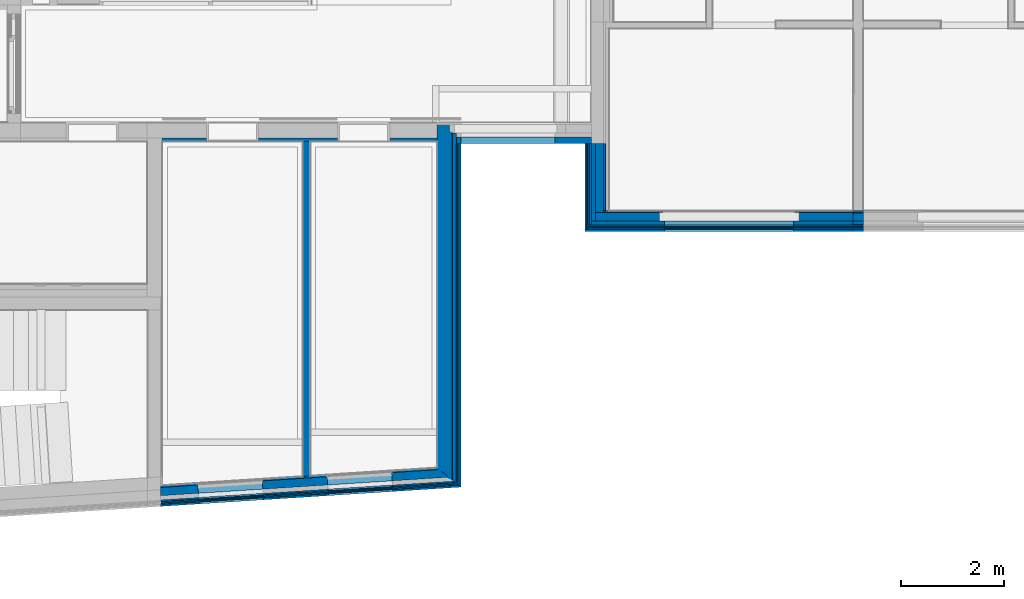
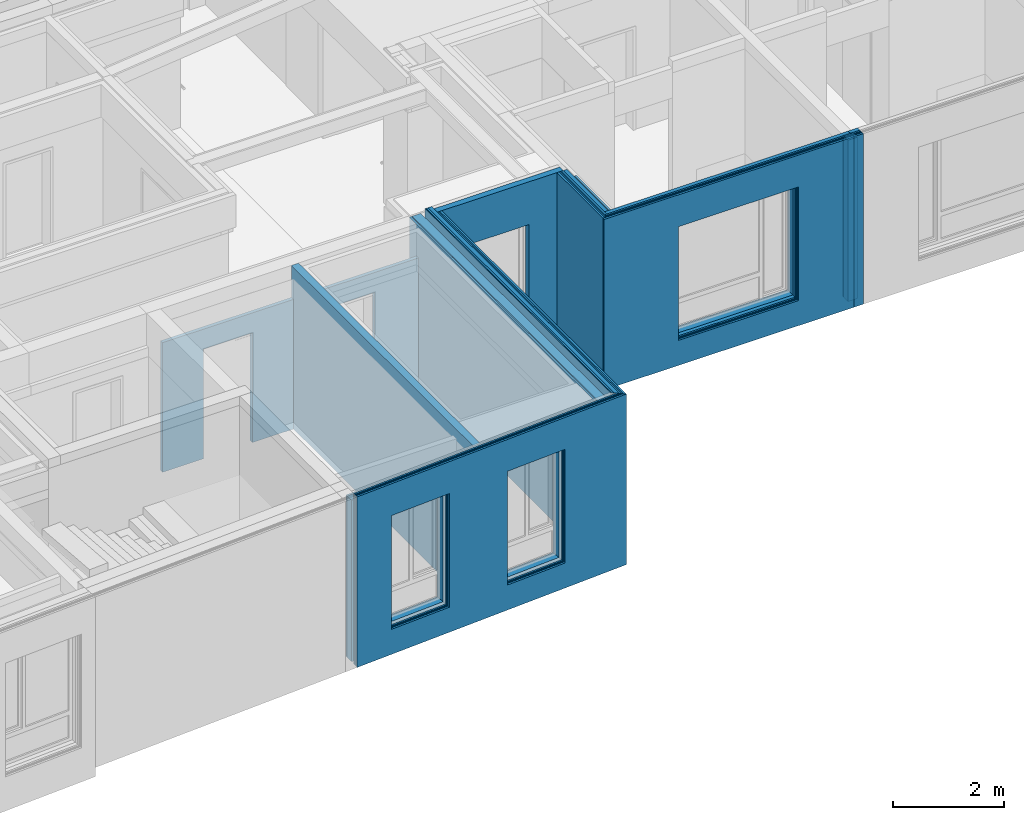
# One storey, part 40 of 222: 39 walls, 24 openings.
"""IFC4 building model written with IfcOpenShell, lengths in metres."""

import ifcopenshell
import ifcopenshell.guid

model = None  # the IFC model being written
_history = None  # IfcOwnerHistory: only IFC2X3 demands one
_inside = {}  # id of a spatial element -> (the spatial element, [elements in it])
_under = {}  # id of a project, library or spatial element -> (it, [spatial elements below it])
_declared = {}  # id of a project -> (the project, [libraries it declares])
_typed = {}  # id of a type object -> (the type object, [elements of that type])
_made_of = {}  # id of a material, layer set ... -> (it, [elements and type objects made of it])


def new_model(schema):
    """Start an empty IFC model of exactly this schema.

    Asked for "IFC4X3", IfcOpenShell would pick the latest addendum, in which some entities
    have other attributes; the version numbers below select the first issue.
    IFC2X3 requires an IfcOwnerHistory on every rooted entity: one is made here for all.
    """
    global model, _history
    if schema == "IFC4X3":
        model = ifcopenshell.file(schema_version=(4, 3, 0, 0))
    else:
        model = ifcopenshell.file(schema=schema)
    _inside.clear()
    _under.clear()
    _declared.clear()
    _typed.clear()
    _made_of.clear()
    _history = None
    if model.schema == "IFC2X3":
        org = make("IfcOrganization", Name="unknown")
        user = make(
            "IfcPersonAndOrganization",
            ThePerson=make("IfcPerson", FamilyName="unknown"),
            TheOrganization=org,
        )
        app = make(
            "IfcApplication",
            ApplicationDeveloper=org,
            Version="unknown",
            ApplicationFullName="unknown",
            ApplicationIdentifier="unknown",
        )
        _history = make(
            "IfcOwnerHistory",
            OwningUser=user,
            OwningApplication=app,
            ChangeAction="ADDED",
            CreationDate=0,
        )
    return model


def make(cls, **values):
    """One entity of the class cls with the attributes given. An attribute that is None is left unset."""
    return model.create_entity(
        cls, **{name: value for name, value in values.items() if value is not None}
    )


def entity(cls, *values):
    """Any entity or typed value of the class cls, its attributes in the order of the schema. None: left unset."""
    e = model.create_entity(cls)
    for i, value in enumerate(values):
        if value is not None:
            e[i] = value
    return e


def rooted(cls, **values):
    """An entity with a GlobalId (a new one), such as an element, a storey or a relation."""
    return make(cls, GlobalId=ifcopenshell.guid.new(), OwnerHistory=_history, **values)


def si_unit(unit_type, name, prefix=None):
    """IfcSIUnit, for example si_unit("LENGTHUNIT", "METRE", prefix="MILLI")."""
    return make("IfcSIUnit", UnitType=unit_type, Prefix=prefix, Name=name)


def converted_unit(unit_type, name, factor, base, dimensions=None, offset=None):
    """IfcConversionBasedUnit, such as the inch: factor (a typed value) times the base unit."""
    return make(
        "IfcConversionBasedUnit"
        if offset is None
        else "IfcConversionBasedUnitWithOffset",
        ConversionOffset=offset,
        Dimensions=None
        if dimensions is None
        else entity("IfcDimensionalExponents", *dimensions),
        UnitType=unit_type,
        Name=name,
        ConversionFactor=make(
            "IfcMeasureWithUnit", ValueComponent=factor, UnitComponent=base
        ),
    )


def derived_unit(unit_type, elements):
    """IfcDerivedUnit: a product of units, each with its exponent."""
    return make(
        "IfcDerivedUnit",
        Elements=[
            make("IfcDerivedUnitElement", Unit=unit, Exponent=power)
            for unit, power in elements
        ],
        UnitType=unit_type,
    )


def assignment(units):
    """IfcUnitAssignment: the units of a project."""
    return None if units is None else make("IfcUnitAssignment", Units=units)


def point(xyz):
    """IfcCartesianPoint."""
    return None if xyz is None else make("IfcCartesianPoint", Coordinates=xyz)


def direction(xyz):
    """IfcDirection."""
    return None if xyz is None else make("IfcDirection", DirectionRatios=xyz)


def frame(location, z_axis=None, x_axis=None):
    """IfcAxis2Placement3D, a coordinate frame: its origin and axes. An axis left out is left unset."""
    return make(
        "IfcAxis2Placement3D",
        Location=point(location),
        Axis=direction(z_axis),
        RefDirection=direction(x_axis),
    )


def frame_2d(location, x_axis=None):
    """IfcAxis2Placement2D, a coordinate frame in the plane: its origin and x axis."""
    return make(
        "IfcAxis2Placement2D", Location=point(location), RefDirection=direction(x_axis)
    )


def origin():
    """The frame at (0, 0, 0) with its axes left unset."""
    return frame((0.0, 0.0, 0.0))


def origin_with_axes():
    """The frame at (0, 0, 0) with the z axis (0, 0, 1) and the x axis (1, 0, 0) written out."""
    return frame((0.0, 0.0, 0.0), z_axis=(0.0, 0.0, 1.0), x_axis=(1.0, 0.0, 0.0))


def place(relative_to, where):
    """IfcLocalPlacement: puts the frame where relative to a parent placement (None: the world)."""
    return make(
        "IfcLocalPlacement", PlacementRelTo=relative_to, RelativePlacement=where
    )


def context(
    kind, dimensions, precision=None, world=None, true_north=None, identifier=None
):
    """IfcGeometricRepresentationContext, for example the 3D "Model" context."""
    return make(
        "IfcGeometricRepresentationContext",
        ContextIdentifier=identifier,
        ContextType=kind,
        CoordinateSpaceDimension=dimensions,
        Precision=precision,
        WorldCoordinateSystem=world,
        TrueNorth=true_north,
    )


def subcontext(parent, identifier, kind, view, scale=None):
    """IfcGeometricRepresentationSubContext, for example "Body" below "Model"."""
    return make(
        "IfcGeometricRepresentationSubContext",
        ContextIdentifier=identifier,
        ContextType=kind,
        ParentContext=parent,
        TargetScale=scale,
        TargetView=view,
    )


def project(units=None, contexts=None):
    """IfcProject with its units and contexts."""
    return rooted(
        "IfcProject",
        Name="project",
        RepresentationContexts=contexts,
        UnitsInContext=assignment(units),
    )


def spatial(cls, under=None, at=None, **own):
    """A site, building, storey or space (cls), placed at a placement, below another one or the project."""
    s = rooted(cls, ObjectPlacement=at, **own)
    if under is not None:
        _under.setdefault(under.id(), (under, []))[1].append(s)
    return s


def polyline(points):
    """IfcPolyline through the points."""
    return make("IfcPolyline", Points=[point(p) for p in points])


def profile(cls, at=None, kind="AREA", **sizes):
    """A parametric profile (cls). Its sizes go by their IFC names, for example OverallWidth=200.0."""
    return make(cls, ProfileType=kind, Position=at, **sizes)


def rectangle(**sizes):
    """IfcRectangleProfileDef."""
    return profile("IfcRectangleProfileDef", **sizes)


def outline(outer, holes=None, kind="AREA"):
    """IfcArbitraryClosedProfileDef: a profile drawn as a closed curve; with holes, ...WithVoids."""
    if holes is None:
        return make("IfcArbitraryClosedProfileDef", ProfileType=kind, OuterCurve=outer)
    return make(
        "IfcArbitraryProfileDefWithVoids",
        ProfileType=kind,
        OuterCurve=outer,
        InnerCurves=holes,
    )


def extrude(swept, where, along, depth):
    """IfcExtrudedAreaSolid: the profile swept, set in the frame where, extruded along a direction by depth."""
    return make(
        "IfcExtrudedAreaSolid",
        SweptArea=swept,
        Position=where,
        ExtrudedDirection=direction(along),
        Depth=depth,
    )


def clip(a, b, op="DIFFERENCE"):
    """IfcBooleanClippingResult: the solid a cut by the half space b."""
    return make(
        "IfcBooleanClippingResult", Operator=op, FirstOperand=a, SecondOperand=b
    )


def bounded_halfspace(plane, agree, where, boundary):
    """IfcPolygonalBoundedHalfSpace: a half space limited to a polygon's prism."""
    return make(
        "IfcPolygonalBoundedHalfSpace",
        BaseSurface=make("IfcPlane", Position=plane),
        AgreementFlag=agree,
        Position=where,
        PolygonalBoundary=boundary,
    )


def shape(context_of_items, identifier, shape_type, items):
    """IfcShapeRepresentation: the items that make up one representation, for example the "Body"."""
    return make(
        "IfcShapeRepresentation",
        ContextOfItems=context_of_items,
        RepresentationIdentifier=identifier,
        RepresentationType=shape_type,
        Items=items,
    )


def material(Name=None, Category=None):
    """IfcMaterial."""
    return make("IfcMaterial", Name=Name, Category=Category)


def made_of(thing, what):
    """Note that an element or type object is made of a material, layer set ...; save() writes the relation."""
    if what is not None:
        _made_of.setdefault(what.id(), (what, []))[1].append(thing)
    return thing


def element(
    cls,
    number,
    at=None,
    inside=None,
    cuts=None,
    type_object=None,
    material=None,
    context=None,
    identifier="Body",
    shape_type=None,
    held_by="IfcProductDefinitionShape",
    body=None,
    shapes=None,
    **own,
):
    """One element of the class cls, such as IfcWall. Its Tag is "e" and its number.

    at: its placement. inside: the storey or other place that contains it. cuts: it is an
    opening in that element (IfcRelVoidsElement). A single representation is given by context,
    identifier, shape_type and body (its items); several are given by shapes. held_by: the class
    of the entity that holds the representations. save() writes the other relations.
    """
    e = rooted(cls, Tag="e%d" % number, ObjectPlacement=at, **own)
    if body is not None:
        shapes = [shape(context, identifier, shape_type, body)]
    if shapes is not None:
        e.Representation = make(held_by, Representations=shapes)
    if inside is not None:
        _inside.setdefault(inside.id(), (inside, []))[1].append(e)
    if cuts is not None:
        rooted(
            "IfcRelVoidsElement", RelatingBuildingElement=cuts, RelatedOpeningElement=e
        )
    if type_object is not None:
        _typed.setdefault(type_object.id(), (type_object, []))[1].append(e)
    return made_of(e, material)


def aggregate(whole, parts):
    """IfcRelAggregates: a whole, such as a stair, and the parts it consists of."""
    return rooted("IfcRelAggregates", RelatingObject=whole, RelatedObjects=parts)


def save(model, path):
    """Write the relations noted so far, then the file.

    IfcRelAggregates (storeys below a building ...), IfcRelContainedInSpatialStructure (elements
    in a storey), IfcRelDefinesByType, IfcRelAssociatesMaterial and IfcRelDeclares: one each for
    every whole, place, type object, material and project.
    """
    for whole, parts in _under.values():
        aggregate(whole, parts)
    for where, things in _inside.values():
        rooted(
            "IfcRelContainedInSpatialStructure",
            RelatedElements=things,
            RelatingStructure=where,
        )
    for kind, things in _typed.values():
        rooted("IfcRelDefinesByType", RelatedObjects=things, RelatingType=kind)
    for what, things in _made_of.values():
        rooted("IfcRelAssociatesMaterial", RelatedObjects=things, RelatingMaterial=what)
    for by, libraries in _declared.values():
        rooted("IfcRelDeclares", RelatingContext=by, RelatedDefinitions=libraries)
    model.write(path)


model = new_model("IFC4")

# Units and contexts
model_context = context("Model", 3, precision=1e-05, world=origin())
body_context = subcontext(model_context, "Body", "Model", "MODEL_VIEW")
ifc_project = project(units=[si_unit("LENGTHUNIT", "METRE"), si_unit("AREAUNIT", "SQUARE_METRE"), si_unit("VOLUMEUNIT", "CUBIC_METRE"), si_unit("MASSUNIT", "GRAM", prefix="KILO"), converted_unit("PLANEANGLEUNIT", "DEGREE", entity("IfcPlaneAngleMeasure", 0.0174532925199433), si_unit("PLANEANGLEUNIT", "RADIAN"), dimensions=[0, 0, 0, 0, 0, 0, 0]), derived_unit("THERMALTRANSMITTANCEUNIT", [(si_unit("POWERUNIT", "WATT"), 1), (si_unit("THERMODYNAMICTEMPERATUREUNIT", "KELVIN"), -1), (si_unit("LENGTHUNIT", "METRE"), -2)]), derived_unit("VOLUMETRICFLOWRATEUNIT", [(si_unit("LENGTHUNIT", "METRE"), 3), (converted_unit("TIMEUNIT", "hour", entity("IfcTimeMeasure", 3600.0), si_unit("TIMEUNIT", "SECOND"), dimensions=[0, 0, 1, 0, 0, 0, 0]), -1), (si_unit("LENGTHUNIT", "METRE"), -1)])], contexts=[model_context])

# Site, building, storey
site_placement = place(None, origin())
site = spatial("IfcSite", under=ifc_project, at=site_placement, Name="Psychiatrie Neubau Wunstorf", CompositionType="ELEMENT")
building_placement = place(site_placement, origin())
building = spatial("IfcBuilding", under=site, at=building_placement, Name="Neubau H2 Stationsgebäude", CompositionType="ELEMENT")
storey_placement = place(building_placement, frame((0.0, 0.0, 3.6)))
storey = spatial("IfcBuildingStorey", under=building, at=storey_placement, Name="H2 Ebene +1", CompositionType="ELEMENT", Elevation=3.6)

# Walls
ifc_material_1 = material(Name="WA-LB")
wall_1_placement = place(storey_placement, frame((76.1, -1.16399999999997, 0.0), z_axis=(0.0, 0.0, 1.0), x_axis=(-1.0, 0.0, 0.0)))
element("IfcWall", 1, at=wall_1_placement, inside=storey, material=ifc_material_1, Name="2x Gipsfaserplatte", context=body_context, shape_type="SweptSolid", body=[
    extrude(rectangle(XDim=0.2, YDim=0.036, at=frame_2d((0.1, 0.018), x_axis=(1.0, 0.0))), origin_with_axes(), (0.0, 0.0, 1.0), 3.55),
])
ifc_material_2 = material(Name="WA-HD")
wall_2_placement = place(storey_placement, frame((76.1, -1.19999999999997, 0.0), z_axis=(0.0, 0.0, 1.0), x_axis=(-1.0, 0.0, 0.0)))
element("IfcWall", 2, at=wall_2_placement, inside=storey, material=ifc_material_2, Name="Holzständer + Zwischendämmung", context=body_context, shape_type="SweptSolid", body=[
    extrude(rectangle(XDim=0.2, YDim=0.16, at=frame_2d((0.1, 0.08), x_axis=(1.0, 0.0))), origin_with_axes(), (0.0, 0.0, 1.0), 3.55),
])
ifc_material_3 = material(Name="WA-DL")
wall_3_placement = place(storey_placement, frame((76.1, -1.35999999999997, 0.0), z_axis=(0.0, 0.0, 1.0), x_axis=(-1.0, 0.0, 0.0)))
element("IfcWall", 3, at=wall_3_placement, inside=storey, material=ifc_material_3, Name="Staffel + Zwischendämmung", context=body_context, shape_type="SweptSolid", body=[
    extrude(rectangle(XDim=0.2, YDim=0.08, at=frame_2d((0.1, 0.04), x_axis=(1.0, 0.0))), origin_with_axes(), (0.0, 0.0, 1.0), 3.75),
])
ifc_material_4 = material(Name="WA-LB")
wall_4_placement = place(storey_placement, frame((76.1, -1.43999999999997, 0.0), z_axis=(0.0, 0.0, 1.0), x_axis=(-1.0, 0.0, 0.0)))
element("IfcWall", 4, at=wall_4_placement, inside=storey, material=ifc_material_4, context=body_context, shape_type="SweptSolid", body=[
    extrude(rectangle(XDim=0.2, YDim=0.036, at=frame_2d((0.1, 0.018), x_axis=(1.0, 0.0))), origin_with_axes(), (0.0, 0.0, 1.0), 3.75),
])
ifc_material_5 = material(Name="WA-KL")
wall_5_placement = place(storey_placement, frame((76.1, -1.47599999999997, 0.0), z_axis=(0.0, 0.0, 1.0), x_axis=(-1.0, 0.0, 0.0)))
element("IfcWall", 5, at=wall_5_placement, inside=storey, material=ifc_material_5, Name="Konterlattung", context=body_context, shape_type="SweptSolid", body=[
    extrude(rectangle(XDim=0.2, YDim=0.024, at=frame_2d((0.1, 0.012), x_axis=(1.0, 0.0))), origin_with_axes(), (0.0, 0.0, 1.0), 3.75),
])
ifc_material_6 = material(Name="WA-TL")
wall_6_placement = place(storey_placement, frame((76.1, -1.49999999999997, 0.0), z_axis=(0.0, 0.0, 1.0), x_axis=(-1.0, 0.0, 0.0)))
element("IfcWall", 6, at=wall_6_placement, inside=storey, material=ifc_material_6, Name="Traglattung", context=body_context, shape_type="SweptSolid", body=[
    extrude(rectangle(XDim=0.2, YDim=0.024, at=frame_2d((0.1, 0.012), x_axis=(1.0, 0.0))), origin_with_axes(), (0.0, 0.0, 1.0), 3.75),
])
ifc_material_7 = material(Name="WA-HS")
wall_7_placement = place(storey_placement, frame((76.1, -1.52399999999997, 0.0), z_axis=(0.0, 0.0, 1.0), x_axis=(-1.0, 0.0, 0.0)))
element("IfcWall", 7, at=wall_7_placement, inside=storey, material=ifc_material_7, Name="Holzschindel", context=body_context, shape_type="SweptSolid", body=[
    extrude(rectangle(XDim=0.2, YDim=0.042, at=frame_2d((0.1, 0.021), x_axis=(1.0, 0.0))), origin_with_axes(), (0.0, 0.0, 1.0), 3.75),
])
ifc_material_8 = material(Name="WA-LB")
wall_8_placement = place(storey_placement, frame((71.111, -1.16399999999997, 0.0), z_axis=(0.0, 0.0, 1.0), x_axis=(0.0, 1.0, 0.0)))
element("IfcWall", 8, at=wall_8_placement, inside=storey, material=ifc_material_8, context=body_context, shape_type="SweptSolid", body=[
    extrude(rectangle(XDim=1.29800244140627, YDim=0.036, at=frame_2d((0.649001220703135, 0.018), x_axis=(1.0, 0.0))), origin_with_axes(), (0.0, 0.0, 1.0), 3.55),
])
ifc_material_9 = material(Name="WA-HD")
wall_9_placement = place(storey_placement, frame((71.075, -1.19999999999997, 0.0), z_axis=(0.0, 0.0, 1.0), x_axis=(0.0, 1.0, 0.0)))
element("IfcWall", 9, at=wall_9_placement, inside=storey, material=ifc_material_9, context=body_context, shape_type="SweptSolid", body=[
    extrude(rectangle(XDim=1.33400244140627, YDim=0.16, at=frame_2d((0.667001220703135, 0.08), x_axis=(1.0, 0.0))), origin_with_axes(), (0.0, 0.0, 1.0), 3.55),
])
ifc_material_10 = material(Name="WA-DL")
wall_10_placement = place(storey_placement, frame((70.915, -1.35999999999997, 0.0), z_axis=(0.0, 0.0, 1.0), x_axis=(0.0, 1.0, 0.0)))
element("IfcWall", 10, at=wall_10_placement, inside=storey, material=ifc_material_10, context=body_context, shape_type="SweptSolid", body=[
    extrude(rectangle(XDim=1.49400244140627, YDim=0.08, at=frame_2d((0.747001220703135, 0.04), x_axis=(1.0, 0.0))), origin_with_axes(), (0.0, 0.0, 1.0), 3.75),
])
ifc_material_11 = material(Name="WA-LB")
wall_11_placement = place(storey_placement, frame((70.835, -1.43999999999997, 0.0), z_axis=(0.0, 0.0, 1.0), x_axis=(0.0, 1.0, 0.0)))
element("IfcWall", 11, at=wall_11_placement, inside=storey, material=ifc_material_11, context=body_context, shape_type="SweptSolid", body=[
    extrude(rectangle(XDim=1.57400244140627, YDim=0.036, at=frame_2d((0.787001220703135, 0.018), x_axis=(1.0, 0.0))), origin_with_axes(), (0.0, 0.0, 1.0), 3.75),
])
ifc_material_12 = material(Name="WA-KL")
wall_12_placement = place(storey_placement, frame((70.799, -1.47599999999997, 0.0), z_axis=(0.0, 0.0, 1.0), x_axis=(0.0, 1.0, 0.0)))
element("IfcWall", 12, at=wall_12_placement, inside=storey, material=ifc_material_12, context=body_context, shape_type="SweptSolid", body=[
    extrude(rectangle(XDim=1.61000244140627, YDim=0.024, at=frame_2d((0.805001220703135, 0.012), x_axis=(1.0, 0.0))), origin_with_axes(), (0.0, 0.0, 1.0), 3.75),
])
ifc_material_13 = material(Name="WA-TL")
wall_13_placement = place(storey_placement, frame((70.775, -1.49999999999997, 0.0), z_axis=(0.0, 0.0, 1.0), x_axis=(0.0, 1.0, 0.0)))
element("IfcWall", 13, at=wall_13_placement, inside=storey, material=ifc_material_13, context=body_context, shape_type="SweptSolid", body=[
    extrude(rectangle(XDim=1.63400244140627, YDim=0.024, at=frame_2d((0.817001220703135, 0.012), x_axis=(1.0, 0.0))), origin_with_axes(), (0.0, 0.0, 1.0), 3.75),
])
ifc_material_14 = material(Name="WA-HS")
wall_14_placement = place(storey_placement, frame((70.751, -1.52399999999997, 0.0), z_axis=(0.0, 0.0, 1.0), x_axis=(0.0, 1.0, 0.0)))
element("IfcWall", 14, at=wall_14_placement, inside=storey, material=ifc_material_14, Name="Keramikschindel", context=body_context, shape_type="SweptSolid", body=[
    extrude(rectangle(XDim=1.65800244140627, YDim=0.042, at=frame_2d((0.829001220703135, 0.021), x_axis=(1.0, 0.0))), origin_with_axes(), (0.0, 0.0, 1.0), 3.75),
])

# Wall, openings
ifc_material_15 = material(Name="WA-LB")
wall_15_placement = place(storey_placement, frame((67.8525026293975, -6.14011802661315, 0.0), z_axis=(0.0, 0.0, 1.0), x_axis=(-0.997944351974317, -0.0640864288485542, 0.0)))
wall_15 = element("IfcWall", 15, at=wall_15_placement, inside=storey, material=ifc_material_15, context=body_context, shape_type="SweptSolid", body=[
    extrude(outline(polyline([(-5.36604679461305, -0.0359999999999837), (-0.00231186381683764, -0.0359999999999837), (0.0, 0.0), (-5.34222362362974, 0.0), (-5.40524242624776, 4.54050609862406e-05), (-5.36604679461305, -0.0359999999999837)])), frame((5.36604679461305, 0.0359999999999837, 0.0), z_axis=(0.0, 0.0, 1.0), x_axis=(1.0, 0.0, 0.0)), (0.0, 0.0, 1.0), 3.55),
])
opening_1_placement = place(wall_15_placement, frame((2.13623932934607, 0.0359999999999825, 0.55), z_axis=(1.64214321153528e-13, -1.0, 0.0), x_axis=(0.0, 0.0, 1.0)))
element("IfcOpeningElement", 16, at=opening_1_placement, cuts=wall_15, Name="Fensteröffnung", ObjectType="Opening", context=body_context, shape_type="SweptSolid", body=[
    extrude(outline(polyline([(2.5, 1.25000000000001), (2.5, 0.0), (0.0, 0.0), (0.0, 1.25000000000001), (2.5, 1.25000000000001)])), origin_with_axes(), (0.0, 0.0, 1.0), 0.0359999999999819),
])
opening_2_placement = place(wall_15_placement, frame((4.64270007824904, 0.0359999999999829, 0.55), z_axis=(-5.05274834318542e-14, -1.0, 0.0), x_axis=(0.0, 0.0, 1.0)))
element("IfcOpeningElement", 17, at=opening_2_placement, cuts=wall_15, Name="Fensteröffnung", ObjectType="Opening", context=body_context, shape_type="SweptSolid", body=[
    extrude(outline(polyline([(2.5, 1.24999999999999), (2.5, 0.0), (0.0, 0.0), (0.0, 1.24999999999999), (2.5, 1.24999999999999)])), origin_with_axes(), (0.0, 0.0, 1.0), 0.0359999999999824),
])

ifc_material_16 = material(Name="WA-HD")
wall_16_placement = place(storey_placement, frame((67.8939277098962, -6.17357742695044, 0.0), z_axis=(0.0, 0.0, 1.0), x_axis=(-0.997944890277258, -0.0640780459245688, 0.0)))
wall_16 = element("IfcWall", 18, at=wall_16_placement, inside=storey, material=ifc_material_16, context=body_context, shape_type="SweptSolid", body=[
    extrude(outline(polyline([(-5.41551603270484, -0.160000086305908), (-0.0102736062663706, -0.160000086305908), (0.0, 0.0), (-5.58944878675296, -4.93312633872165e-05), (-5.41551603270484, -0.160000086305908)])), frame((5.41551603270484, 0.160000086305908, 0.0), z_axis=(0.0, 0.0, 1.0), x_axis=(1.0, 0.0, 0.0)), (0.0, 0.0, 1.0), 3.55),
])
opening_3_placement = place(wall_16_placement, frame((4.68189436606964, 0.159993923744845, 0.55), z_axis=(8.40018956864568e-06, -0.999999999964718, 0.0), x_axis=(0.0, 0.0, 1.0)))
element("IfcOpeningElement", 19, at=opening_3_placement, cuts=wall_16, Name="Fensteröffnung", ObjectType="Opening", context=body_context, shape_type="SweptSolid", body=[
    extrude(outline(polyline([(2.5, 1.24999999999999), (2.5, 0.0), (0.0, 0.0), (0.0, 1.24999999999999), (2.5, 1.24999999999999)])), origin_with_axes(), (0.0, 0.0, 1.0), 0.160000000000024),
])
opening_4_placement = place(wall_16_placement, frame((2.17543361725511, 0.15997286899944, 0.55), z_axis=(8.40018952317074e-06, -0.999999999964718, 0.0), x_axis=(0.0, 0.0, 1.0)))
element("IfcOpeningElement", 20, at=opening_4_placement, cuts=wall_16, Name="Fensteröffnung", ObjectType="Opening", context=body_context, shape_type="SweptSolid", body=[
    extrude(outline(polyline([(2.5, 1.25000000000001), (2.5, 0.0), (0.0, 0.0), (0.0, 1.25000000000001), (2.5, 1.25000000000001)])), origin_with_axes(), (0.0, 0.0, 1.0), 0.160000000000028),
])

ifc_material_17 = material(Name="WA-LB")
wall_17_placement = place(storey_placement, frame((68.1696920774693, -6.39631472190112, 0.0), z_axis=(0.0, 0.0, 1.0), x_axis=(-0.997944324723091, -0.0640868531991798, 0.0)))
wall_17 = element("IfcWall", 21, at=wall_17_placement, inside=storey, material=ifc_material_17, context=body_context, shape_type="SweptSolid", body=[
    extrude(outline(polyline([(-5.68388978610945, -0.035999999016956), (-0.00231187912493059, -0.0359999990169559), (0.0, 0.0), (-5.72303865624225, 2.43357766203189e-06), (-5.68388978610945, -0.035999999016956)])), frame((5.68388978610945, 0.035999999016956, 0.0), z_axis=(0.0, 0.0, 1.0), x_axis=(1.0, 0.0, 0.0)), (0.0, 0.0, 1.0), 3.75),
])
opening_5_placement = place(wall_17_placement, frame((4.94281876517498, 3.14138667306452e-07, 0.55), z_axis=(-4.25224721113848e-07, -0.99999999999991, 0.0), x_axis=(0.0, 0.0, 1.0)))
element("IfcOpeningElement", 22, at=opening_5_placement, cuts=wall_17, Name="Fensteröffnung", ObjectType="Opening", context=body_context, shape_type="SweptSolid", body=[
    extrude(outline(polyline([(2.5, 1.24999999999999), (2.5, 0.0), (0.0, 0.0), (0.0, 1.24999999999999), (2.5, 1.24999999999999)])), origin_with_axes(), (0.0, 0.0, 1.0), 0.0800003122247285),
])
opening_6_placement = place(wall_17_placement, frame((2.43635801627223, 1.37994779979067e-06, 0.55), z_axis=(-4.2522477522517e-07, -0.99999999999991, 0.0), x_axis=(0.0, 0.0, 1.0)))
element("IfcOpeningElement", 23, at=opening_6_placement, cuts=wall_17, Name="Fensteröffnung", ObjectType="Opening", context=body_context, shape_type="SweptSolid", body=[
    extrude(outline(polyline([(2.5, 1.25000000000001), (2.5, 0.0), (0.0, 0.0), (0.0, 1.25000000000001), (2.5, 1.25000000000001)])), origin_with_axes(), (0.0, 0.0, 1.0), 0.0800013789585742),
])
opening_7_placement = place(wall_17_placement, frame((4.94281878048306, 0.0360003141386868, 0.55), z_axis=(-4.25224849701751e-07, -0.99999999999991, 0.0), x_axis=(0.0, 0.0, 1.0)))
element("IfcOpeningElement", 24, at=opening_7_placement, cuts=wall_17, Name="Fensteröffnung", ObjectType="Opening", context=body_context, shape_type="SweptSolid", body=[
    extrude(outline(polyline([(2.5, 1.24999999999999), (2.5, 0.0), (0.0, 0.0), (0.0, 1.24999999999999), (2.5, 1.24999999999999)])), origin_with_axes(), (0.0, 0.0, 1.0), 0.0360000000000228),
])
opening_8_placement = place(wall_17_placement, frame((2.43635803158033, 0.0360013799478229, 0.55), z_axis=(-4.25224647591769e-07, -0.99999999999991, 0.0), x_axis=(0.0, 0.0, 1.0)))
element("IfcOpeningElement", 25, at=opening_8_placement, cuts=wall_17, Name="Fensteröffnung", ObjectType="Opening", context=body_context, shape_type="SweptSolid", body=[
    extrude(outline(polyline([(2.5, 1.25), (2.5, 0.0), (0.0, 0.0), (0.0, 1.25), (2.5, 1.25)])), origin_with_axes(), (0.0, 0.0, 1.0), 0.0360000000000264),
])

ifc_material_18 = material(Name="WA-KL")
wall_18_placement = place(storey_placement, frame((68.2110677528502, -6.42973421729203, 0.0), z_axis=(0.0, 0.0, 1.0), x_axis=(-0.997944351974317, -0.0640864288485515, 0.0)))
wall_18 = element("IfcWall", 26, at=wall_18_placement, inside=storey, material=ifc_material_18, context=body_context, shape_type="SweptSolid", body=[
    extrude(outline(polyline([(-5.72457989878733, -0.0239999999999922), (-0.00154124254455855, -0.0239999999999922), (0.0, 0.0), (-5.75067740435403, 0.0), (-5.72457989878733, -0.0239999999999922)])), frame((5.72457989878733, 0.0239999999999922, 0.0), z_axis=(0.0, 0.0, 1.0), x_axis=(1.0, 0.0, 0.0)), (0.0, 0.0, 1.0), 3.75),
])
opening_9_placement = place(wall_18_placement, frame((4.98196765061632, 0.0239999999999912, 0.55), z_axis=(7.57912251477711e-14, -1.0, 0.0), x_axis=(0.0, 0.0, 1.0)))
element("IfcOpeningElement", 27, at=opening_9_placement, cuts=wall_18, Name="Fensteröffnung", ObjectType="Opening", context=body_context, shape_type="SweptSolid", body=[
    extrude(outline(polyline([(2.5, 1.25), (2.5, 0.0), (0.0, 0.0), (0.0, 1.25), (2.5, 1.25)])), origin_with_axes(), (0.0, 0.0, 1.0), 0.0239999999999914),
])
opening_10_placement = place(wall_18_placement, frame((2.47550690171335, 0.0239999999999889, 0.55), z_axis=(-2.27373675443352e-13, -1.0, 0.0), x_axis=(0.0, 0.0, 1.0)))
element("IfcOpeningElement", 28, at=opening_10_placement, cuts=wall_18, Name="Fensteröffnung", ObjectType="Opening", context=body_context, shape_type="SweptSolid", body=[
    extrude(outline(polyline([(2.5, 1.24999999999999), (2.5, 0.0), (0.0, 0.0), (0.0, 1.24999999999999), (2.5, 1.24999999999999)])), origin_with_axes(), (0.0, 0.0, 1.0), 0.0239999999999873),
])

ifc_material_19 = material(Name="WA-TL")
wall_19_placement = place(storey_placement, frame((68.2386496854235, -6.45201238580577, 0.0), z_axis=(0.0, 0.0, 1.0), x_axis=(-0.997944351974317, -0.0640864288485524, 0.0)))
wall_19 = element("IfcWall", 29, at=wall_19_placement, inside=storey, material=ifc_material_19, context=body_context, shape_type="SweptSolid", body=[
    extrude(outline(polyline([(-5.75221864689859, -0.0239999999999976), (-0.00154124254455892, -0.0239999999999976), (0.0, 0.0), (-5.7783161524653, 0.0), (-5.75221864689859, -0.0239999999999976)])), frame((5.75221864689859, 0.0239999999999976, 0.0), z_axis=(0.0, 0.0, 1.0), x_axis=(1.0, 0.0, 0.0)), (0.0, 0.0, 1.0), 3.75),
])
opening_11_placement = place(wall_19_placement, frame((2.50160440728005, 0.0239999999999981, 0.55), z_axis=(-2.65269288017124e-13, -1.0, 0.0), x_axis=(0.0, 0.0, 1.0)))
element("IfcOpeningElement", 30, at=opening_11_placement, cuts=wall_19, Name="Fensteröffnung", ObjectType="Opening", context=body_context, shape_type="SweptSolid", body=[
    extrude(outline(polyline([(2.5, 1.25), (2.5, 0.0), (0.0, 0.0), (0.0, 1.25), (2.5, 1.25)])), origin_with_axes(), (0.0, 0.0, 1.0), 0.0239999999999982),
])
opening_12_placement = place(wall_19_placement, frame((5.00806515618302, 0.0239999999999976, 0.55), z_axis=(7.5791225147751e-14, -1.0, 0.0), x_axis=(0.0, 0.0, 1.0)))
element("IfcOpeningElement", 31, at=opening_12_placement, cuts=wall_19, Name="Fensteröffnung", ObjectType="Opening", context=body_context, shape_type="SweptSolid", body=[
    extrude(outline(polyline([(2.5, 1.25), (2.5, 0.0), (0.0, 0.0), (0.0, 1.25), (2.5, 1.25)])), origin_with_axes(), (0.0, 0.0, 1.0), 0.0239999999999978),
])

ifc_material_20 = material(Name="WA-HS")
wall_20_placement = place(storey_placement, frame((68.2662316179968, -6.47429055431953, 0.0), z_axis=(0.0, 0.0, 1.0), x_axis=(-0.997944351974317, -0.0640864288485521, 0.0)))
wall_20 = element("IfcWall", 32, at=wall_20_placement, inside=storey, material=ifc_material_20, context=body_context, shape_type="SweptSolid", body=[
    extrude(outline(polyline([(-5.78101332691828, -0.0419999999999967), (-0.00269717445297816, -0.0419999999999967), (0.0, 0.0), (-5.82668396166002, 0.0), (-5.78101332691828, -0.0419999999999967)])), frame((5.78101332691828, 0.0419999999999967, 0.0), z_axis=(0.0, 0.0, 1.0), x_axis=(1.0, 0.0, 0.0)), (0.0, 0.0, 1.0), 3.75),
])
opening_13_placement = place(wall_20_placement, frame((5.03416266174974, 0.0420000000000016, 0.55), z_axis=(8.66185430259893e-14, -1.0, 0.0), x_axis=(0.0, 0.0, 1.0)))
element("IfcOpeningElement", 33, at=opening_13_placement, cuts=wall_20, Name="Fensteröffnung", ObjectType="Opening", context=body_context, shape_type="SweptSolid", body=[
    extrude(outline(polyline([(2.5, 1.24999999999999), (2.5, 0.0), (0.0, 0.0), (0.0, 1.24999999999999), (2.5, 1.24999999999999)])), origin_with_axes(), (0.0, 0.0, 1.0), 0.0420000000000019),
])
opening_14_placement = place(wall_20_placement, frame((2.52770191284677, 0.0420000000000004, 0.55), z_axis=(7.57912251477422e-14, -1.0, 0.0), x_axis=(0.0, 0.0, 1.0)))
element("IfcOpeningElement", 34, at=opening_14_placement, cuts=wall_20, Name="Fensteröffnung", ObjectType="Opening", context=body_context, shape_type="SweptSolid", body=[
    extrude(outline(polyline([(2.5, 1.25000000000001), (2.5, 0.0), (0.0, 0.0), (0.0, 1.25000000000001), (2.5, 1.25000000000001)])), origin_with_axes(), (0.0, 0.0, 1.0), 0.042000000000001),
])

# Walls
ifc_material_21 = material(Name="WA-LB")
wall_21_placement = place(storey_placement, frame((67.8525, 0.5000024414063, 0.0), z_axis=(0.0, 0.0, 1.0), x_axis=(0.0, -1.0, 0.0)))
element("IfcWall", 35, at=wall_21_placement, inside=storey, material=ifc_material_21, Name="2x Gipsfaserplatte", context=body_context, shape_type="SweptSolid", body=[
    extrude(outline(polyline([(-6.66919585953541, 0.0), (-0.0290775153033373, 0.0), (0.0, 0.036), (-6.66919585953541, 0.036), (-6.66919585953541, 0.0)])), frame((6.66919585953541, 0.0, 0.0), z_axis=(0.0, 0.0, 1.0), x_axis=(1.0, 0.0, 0.0)), (0.0, 0.0, 1.0), 3.55),
])
ifc_material_22 = material(Name="WA-LB")
wall_22_placement = place(storey_placement, frame((67.8885, 0.5000024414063, 0.0), z_axis=(0.0, 0.0, 1.0), x_axis=(0.0, -1.0, 0.0)))
element("IfcWall", 36, at=wall_22_placement, inside=storey, material=ifc_material_22, Name="2x Gipsfaserplatte", context=body_context, shape_type="SweptSolid", body=[
    extrude(outline(polyline([(-6.68454232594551, 0.0), (-0.0153464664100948, 0.0), (0.0, 0.019), (-6.68454232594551, 0.019), (-6.68454232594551, 0.0)])), frame((6.68454232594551, 0.0, 0.0), z_axis=(0.0, 0.0, 1.0), x_axis=(1.0, 0.0, 0.0)), (0.0, 0.0, 1.0), 3.55),
])
ifc_material_23 = material(Name="WA-DL")
wall_23_placement = place(storey_placement, frame((67.9075, 0.500002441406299, 0.0), z_axis=(0.0, 0.0, 1.0), x_axis=(0.0, -1.0, 0.0)))
element("IfcWall", 37, at=wall_23_placement, inside=storey, material=ifc_material_23, Name="Holzständer + Zwischendämmung", context=body_context, shape_type="SweptSolid", body=[
    extrude(outline(polyline([(-6.82992990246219, 0.0), (-0.145387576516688, 0.0), (0.0, 0.18), (-6.82992990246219, 0.18), (-6.82992990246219, 0.0)])), frame((6.82992990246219, 0.0, 0.0), z_axis=(0.0, 0.0, 1.0), x_axis=(1.0, 0.0, 0.0)), (0.0, 0.0, 1.0), 3.55),
])
ifc_material_24 = material(Name="WA-LB")
wall_24_placement = place(storey_placement, frame((68.0875, 0.340002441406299, 0.0), z_axis=(0.0, 0.0, 1.0), x_axis=(0.0, -1.0, 0.0)))
element("IfcWall", 38, at=wall_24_placement, inside=storey, material=ifc_material_24, context=body_context, shape_type="SweptSolid", body=[
    extrude(outline(polyline([(-6.68527636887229, 0.0), (-0.0153464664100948, 0.0), (0.0, 0.019), (-6.68527636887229, 0.019), (-6.68527636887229, 0.0)])), frame((6.68527636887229, 0.0, 0.0), z_axis=(0.0, 0.0, 1.0), x_axis=(1.0, 0.0, 0.0)), (0.0, 0.0, 1.0), 3.75),
])
ifc_material_25 = material(Name="WA-LB")
wall_25_placement = place(storey_placement, frame((68.1065, 0.340002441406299, 0.0), z_axis=(0.0, 0.0, 1.0), x_axis=(0.0, -1.0, 0.0)))
element("IfcWall", 39, at=wall_25_placement, inside=storey, material=ifc_material_25, context=body_context, shape_type="SweptSolid", body=[
    extrude(outline(polyline([(-6.71435388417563, 0.0), (-0.0290775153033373, 0.0), (0.0, 0.036), (-6.71435388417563, 0.036), (-6.71435388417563, 0.0)])), frame((6.71435388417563, 0.0, 0.0), z_axis=(0.0, 0.0, 1.0), x_axis=(1.0, 0.0, 0.0)), (0.0, 0.0, 1.0), 3.75),
])
ifc_material_26 = material(Name="WA-DL")
wall_26_placement = place(storey_placement, frame((68.1425, 0.340002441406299, 0.0), z_axis=(0.0, 0.0, 1.0), x_axis=(0.0, -1.0, 0.0)))
element("IfcWall", 40, at=wall_26_placement, inside=storey, material=ifc_material_26, Name="Staffel + Zwischendämmung", context=body_context, shape_type="SweptSolid", body=[
    extrude(outline(polyline([(-6.77897058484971, 0.0), (-0.0646167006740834, 0.0), (0.0, 0.08), (-6.77897058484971, 0.08), (-6.77897058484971, 0.0)])), frame((6.77897058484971, 0.0, 0.0), z_axis=(0.0, 0.0, 1.0), x_axis=(1.0, 0.0, 0.0)), (0.0, 0.0, 1.0), 3.75),
])
ifc_material_27 = material(Name="WA-KL")
wall_27_placement = place(storey_placement, frame((68.2225, 0.134002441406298, 0.0), z_axis=(0.0, 0.0, 1.0), x_axis=(0.0, -1.0, 0.0)))
element("IfcWall", 41, at=wall_27_placement, inside=storey, material=ifc_material_27, Name="Konterlattung", context=body_context, shape_type="SweptSolid", body=[
    extrude(outline(polyline([(-6.59316330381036, 0.0), (-0.0201927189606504, 0.0), (0.0, 0.025), (-6.59316330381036, 0.025), (-6.59316330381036, 0.0)])), frame((6.59316330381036, 0.0, 0.0), z_axis=(0.0, 0.0, 1.0), x_axis=(1.0, 0.0, 0.0)), (0.0, 0.0, 1.0), 3.75),
])
ifc_material_28 = material(Name="WA-TL")
wall_28_placement = place(storey_placement, frame((68.2475, 0.134002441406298, 0.0), z_axis=(0.0, 0.0, 1.0), x_axis=(0.0, -1.0, 0.0)))
element("IfcWall", 42, at=wall_28_placement, inside=storey, material=ifc_material_28, Name="Traglattung", context=body_context, shape_type="SweptSolid", body=[
    extrude(outline(polyline([(-6.61335602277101, 0.0), (-0.0201927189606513, 0.0), (0.0, 0.025), (-6.61335602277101, 0.025), (-6.61335602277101, 0.0)])), frame((6.61335602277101, 0.0, 0.0), z_axis=(0.0, 0.0, 1.0), x_axis=(1.0, 0.0, 0.0)), (0.0, 0.0, 1.0), 3.75),
])
ifc_material_29 = material(Name="WA-HS")
wall_29_placement = place(storey_placement, frame((68.2725, 0.134002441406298, 0.0), z_axis=(0.0, 0.0, 1.0), x_axis=(0.0, -1.0, 0.0)))
element("IfcWall", 43, at=wall_29_placement, inside=storey, material=ifc_material_29, Name="Keramikschindel", context=body_context, shape_type="SweptSolid", body=[
    extrude(outline(polyline([(-6.6472797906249, 0.0), (-0.0339237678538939, 0.0), (0.0, 0.042), (-6.6472797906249, 0.042), (-6.6472797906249, 0.0)])), frame((6.6472797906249, 0.0, 0.0), z_axis=(0.0, 0.0, 1.0), x_axis=(1.0, 0.0, 0.0)), (0.0, 0.0, 1.0), 3.75),
])

# Wall, opening
ifc_material_30 = material(Name="WA-LB")
wall_30_placement = place(storey_placement, frame((70.8355, 0.260002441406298, 0.0), z_axis=(0.0, 0.0, 1.0), x_axis=(-1.0, 3.26311244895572e-16, 0.0)))
wall_30 = element("IfcWall", 44, at=wall_30_placement, inside=storey, material=ifc_material_30, context=body_context, shape_type="SweptSolid", body=[
    extrude(rectangle(XDim=2.61299999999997, YDim=0.126, at=frame_2d((1.30649999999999, 0.063), x_axis=(1.0, 0.0))), origin_with_axes(), (0.0, 0.0, 1.0), 3.75),
])
opening_15_placement = place(wall_30_placement, frame((2.52099999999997, 0.126, 0.55), z_axis=(0.0, -1.0, 0.0), x_axis=(0.0, 0.0, 1.0)))
element("IfcOpeningElement", 45, at=opening_15_placement, cuts=wall_30, Name="Fensteröffnung", ObjectType="Opening", context=body_context, shape_type="SweptSolid", body=[
    extrude(outline(polyline([(2.26, 1.8145), (2.26, 0.0), (0.0, 0.0), (0.0, 1.8145), (2.26, 1.8145)])), origin_with_axes(), (0.0, 0.0, 1.0), 0.126),
])

ifc_material_31 = material(Name="WA-LB")
wall_31_placement = place(storey_placement, frame((75.9, -1.16399999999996, 0.0), z_axis=(0.0, 0.0, 1.0), x_axis=(-1.0, -1.50797048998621e-15, 0.0)))
wall_31 = element("IfcWall", 46, at=wall_31_placement, inside=storey, material=ifc_material_31, context=body_context, shape_type="SweptSolid", body=[
    extrude(rectangle(XDim=4.82499999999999, YDim=0.036, at=frame_2d((2.41249999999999, 0.018), x_axis=(1.0, 0.0))), origin_with_axes(), (0.0, 0.0, 1.0), 3.55),
])
opening_16_placement = place(wall_31_placement, frame((1.14999995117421, 0.0, 0.55), z_axis=(0.0, 1.0, 0.0), x_axis=(0.0, 0.0, 1.0)))
element("IfcOpeningElement", 47, at=opening_16_placement, cuts=wall_31, Name="Fensteröffnung", ObjectType="Opening", context=body_context, shape_type="SweptSolid", body=[
    extrude(outline(polyline([(2.5, 2.5), (2.5, 0.0), (0.0, 0.0), (0.0, 2.5), (2.5, 2.5)])), origin_with_axes(), (0.0, 0.0, 1.0), 0.036),
])

ifc_material_32 = material(Name="WA-HD")
wall_32_placement = place(storey_placement, frame((75.9, -1.19999999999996, 0.0), z_axis=(0.0, 0.0, 1.0), x_axis=(-1.0, -1.50518180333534e-15, 0.0)))
wall_32 = element("IfcWall", 48, at=wall_32_placement, inside=storey, material=ifc_material_32, context=body_context, shape_type="Clipping", body=[
    clip(extrude(rectangle(XDim=4.98499999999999, YDim=0.16, at=frame_2d((2.49249999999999, 0.08), x_axis=(1.0, 0.0))), origin_with_axes(), (0.0, 0.0, 1.0), 3.55), bounded_halfspace(frame((2.39999996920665, 0.0799999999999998, 0.26), z_axis=(0.0, 0.0, 1.0), x_axis=(1.0, 1.06426793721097e-17, 0.0)), True, origin_with_axes(), polyline([(1.04999995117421, 0.0), (3.74999998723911, 0.0), (3.74999998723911, 0.16), (1.04999995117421, 0.16), (1.04999995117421, 0.0)]))),
])
opening_17_placement = place(wall_32_placement, frame((1.14999995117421, 0.0, 0.55), z_axis=(1.4210854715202e-15, 1.0, 0.0), x_axis=(0.0, 0.0, 1.0)))
element("IfcOpeningElement", 49, at=opening_17_placement, cuts=wall_32, Name="Fensteröffnung", ObjectType="Opening", context=body_context, shape_type="SweptSolid", body=[
    extrude(outline(polyline([(2.5, 2.5), (2.5, 0.0), (0.0, 0.0), (0.0, 2.5), (2.5, 2.5)])), origin_with_axes(), (0.0, 0.0, 1.0), 0.16),
])

ifc_material_33 = material(Name="WA-DL")
wall_33_placement = place(storey_placement, frame((75.9, -1.35999999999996, 0.0), z_axis=(0.0, 0.0, 1.0), x_axis=(-1.0, -1.52629910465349e-15, 0.0)))
wall_33 = element("IfcWall", 50, at=wall_33_placement, inside=storey, material=ifc_material_33, context=body_context, shape_type="SweptSolid", body=[
    extrude(rectangle(XDim=5.06499999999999, YDim=0.08, at=frame_2d((2.53249999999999, 0.04), x_axis=(1.0, 0.0))), origin_with_axes(), (0.0, 0.0, 1.0), 3.75),
])
opening_18_placement = place(wall_33_placement, frame((1.14999995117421, 0.0, 0.55), z_axis=(2.8421709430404e-15, 1.0, 0.0), x_axis=(0.0, 0.0, 1.0)))
element("IfcOpeningElement", 51, at=opening_18_placement, cuts=wall_33, Name="Fensteröffnung", ObjectType="Opening", context=body_context, shape_type="SweptSolid", body=[
    extrude(outline(polyline([(2.5, 2.5), (2.5, 0.0), (0.0, 0.0), (0.0, 2.5), (2.5, 2.5)])), origin_with_axes(), (0.0, 0.0, 1.0), 0.08),
])

ifc_material_34 = material(Name="WA-LB")
wall_34_placement = place(storey_placement, frame((75.9, -1.43999999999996, 0.0), z_axis=(0.0, 0.0, 1.0), x_axis=(-1.0, -1.51552734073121e-15, 0.0)))
wall_34 = element("IfcWall", 52, at=wall_34_placement, inside=storey, material=ifc_material_34, context=body_context, shape_type="SweptSolid", body=[
    extrude(rectangle(XDim=5.10099999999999, YDim=0.036, at=frame_2d((2.55049999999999, 0.018), x_axis=(1.0, 0.0))), origin_with_axes(), (0.0, 0.0, 1.0), 3.75),
])
opening_19_placement = place(wall_34_placement, frame((1.14999995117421, 0.0, 0.55), z_axis=(0.0, 1.0, 0.0), x_axis=(0.0, 0.0, 1.0)))
element("IfcOpeningElement", 53, at=opening_19_placement, cuts=wall_34, Name="Fensteröffnung", ObjectType="Opening", context=body_context, shape_type="SweptSolid", body=[
    extrude(outline(polyline([(2.5, 2.5), (2.5, 0.0), (0.0, 0.0), (0.0, 2.5), (2.5, 2.5)])), origin_with_axes(), (0.0, 0.0, 1.0), 0.036),
])

ifc_material_35 = material(Name="WA-KL")
wall_35_placement = place(storey_placement, frame((75.9, -1.47599999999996, 0.0), z_axis=(0.0, 0.0, 1.0), x_axis=(-1.0, -1.50843023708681e-15, 0.0)))
wall_35 = element("IfcWall", 54, at=wall_35_placement, inside=storey, material=ifc_material_35, context=body_context, shape_type="SweptSolid", body=[
    extrude(rectangle(XDim=5.12499999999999, YDim=0.024, at=frame_2d((2.56249999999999, 0.012), x_axis=(1.0, 0.0))), origin_with_axes(), (0.0, 0.0, 1.0), 3.75),
])
opening_20_placement = place(wall_35_placement, frame((1.14999995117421, 0.0, 0.55), z_axis=(0.0, 1.0, 0.0), x_axis=(0.0, 0.0, 1.0)))
element("IfcOpeningElement", 55, at=opening_20_placement, cuts=wall_35, Name="Fensteröffnung", ObjectType="Opening", context=body_context, shape_type="SweptSolid", body=[
    extrude(outline(polyline([(2.5, 2.5), (2.5, 0.0), (0.0, 0.0), (0.0, 2.5), (2.5, 2.5)])), origin_with_axes(), (0.0, 0.0, 1.0), 0.024),
])

ifc_material_36 = material(Name="WA-TL")
wall_36_placement = place(storey_placement, frame((75.9, -1.49999999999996, 0.0), z_axis=(0.0, 0.0, 1.0), x_axis=(-1.0, -1.50139929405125e-15, 0.0)))
wall_36 = element("IfcWall", 56, at=wall_36_placement, inside=storey, material=ifc_material_36, context=body_context, shape_type="SweptSolid", body=[
    extrude(rectangle(XDim=5.14899999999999, YDim=0.0240000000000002, at=frame_2d((2.57449999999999, 0.0120000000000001), x_axis=(1.0, 0.0))), origin_with_axes(), (0.0, 0.0, 1.0), 3.75),
])
opening_21_placement = place(wall_36_placement, frame((1.14999995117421, 0.0, 0.55), z_axis=(0.0, 1.0, 0.0), x_axis=(0.0, 0.0, 1.0)))
element("IfcOpeningElement", 57, at=opening_21_placement, cuts=wall_36, Name="Fensteröffnung", ObjectType="Opening", context=body_context, shape_type="SweptSolid", body=[
    extrude(outline(polyline([(2.5, 2.5), (2.5, 0.0), (0.0, 0.0), (0.0, 2.5), (2.5, 2.5)])), origin_with_axes(), (0.0, 0.0, 1.0), 0.024),
])

ifc_material_37 = material(Name="WA-HS")
wall_37_placement = place(storey_placement, frame((75.9, -1.52399999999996, 0.0), z_axis=(0.0, 0.0, 1.0), x_axis=(-1.0, -1.53305309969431e-15, 0.0)))
wall_37 = element("IfcWall", 58, at=wall_37_placement, inside=storey, material=ifc_material_37, context=body_context, shape_type="SweptSolid", body=[
    extrude(rectangle(XDim=5.19099999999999, YDim=0.042, at=frame_2d((2.59549999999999, 0.021), x_axis=(1.0, 0.0))), origin_with_axes(), (0.0, 0.0, 1.0), 3.75),
])
opening_22_placement = place(wall_37_placement, frame((1.14999995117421, 0.0, 0.55), z_axis=(0.0, 1.0, 0.0), x_axis=(0.0, 0.0, 1.0)))
element("IfcOpeningElement", 59, at=opening_22_placement, cuts=wall_37, Name="Fensteröffnung", ObjectType="Opening", context=body_context, shape_type="SweptSolid", body=[
    extrude(outline(polyline([(2.5, 2.5), (2.5, 0.0), (0.0, 0.0), (0.0, 2.5), (2.5, 2.5)])), origin_with_axes(), (0.0, 0.0, 1.0), 0.0419999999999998),
])

# Wall
ifc_material_38 = material(Name="WI-LB")
wall_38_placement = place(storey_placement, frame((65.4, -6.30724668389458, 0.0), z_axis=(0.0, 0.0, 1.0), x_axis=(0.0, 1.0, 0.0)))
element("IfcWall", 60, at=wall_38_placement, inside=storey, material=ifc_material_38, context=body_context, shape_type="SweptSolid", body=[
    extrude(rectangle(XDim=6.55324912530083, YDim=0.15, at=frame_2d((3.27662456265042, 0.075), x_axis=(1.0, 0.0))), origin_with_axes(), (0.0, 0.0, 1.0), 3.55),
])

# Wall, openings
ifc_material_39 = material(Name="WI-LB")
wall_39_placement = place(storey_placement, frame((67.8885, 0.246002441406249, 0.0), z_axis=(0.0, 0.0, 1.0), x_axis=(-1.0, 4.29610863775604e-16, 0.0)))
wall_39 = element("IfcWall", 61, at=wall_39_placement, inside=storey, material=ifc_material_39, context=body_context, shape_type="SweptSolid", body=[
    extrude(rectangle(XDim=5.35870635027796, YDim=0.0749999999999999, at=frame_2d((2.67935317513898, 0.0375), x_axis=(1.0, 0.0))), origin_with_axes(), (0.0, 0.0, 1.0), 2.85),
])
opening_23_placement = place(wall_39_placement, frame((3.49427442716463, 0.0, 0.0), z_axis=(0.0, 1.0, 0.0), x_axis=(0.0, 0.0, 1.0)))
element("IfcOpeningElement", 62, at=opening_23_placement, cuts=wall_39, Name="Türöffnung", ObjectType="Opening", context=body_context, shape_type="SweptSolid", body=[
    extrude(outline(polyline([(2.41, 1.01), (2.41, 0.0), (0.0, 0.0), (0.0, 1.01), (2.41, 1.01)])), origin_with_axes(), (0.0, 0.0, 1.0), 0.075),
])
opening_24_placement = place(wall_39_placement, frame((1.96349999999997, 0.0750000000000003, 0.0), z_axis=(0.0, -1.0, 0.0), x_axis=(0.0, 0.0, 1.0)))
element("IfcOpeningElement", 63, at=opening_24_placement, cuts=wall_39, Name="Türöffnung", ObjectType="Opening", context=body_context, shape_type="SweptSolid", body=[
    extrude(outline(polyline([(2.41, 1.01), (2.41, 0.0), (0.0, 0.0), (0.0, 1.01), (2.41, 1.01)])), origin_with_axes(), (0.0, 0.0, 1.0), 0.075),
])

save(model, "model.ifc")
